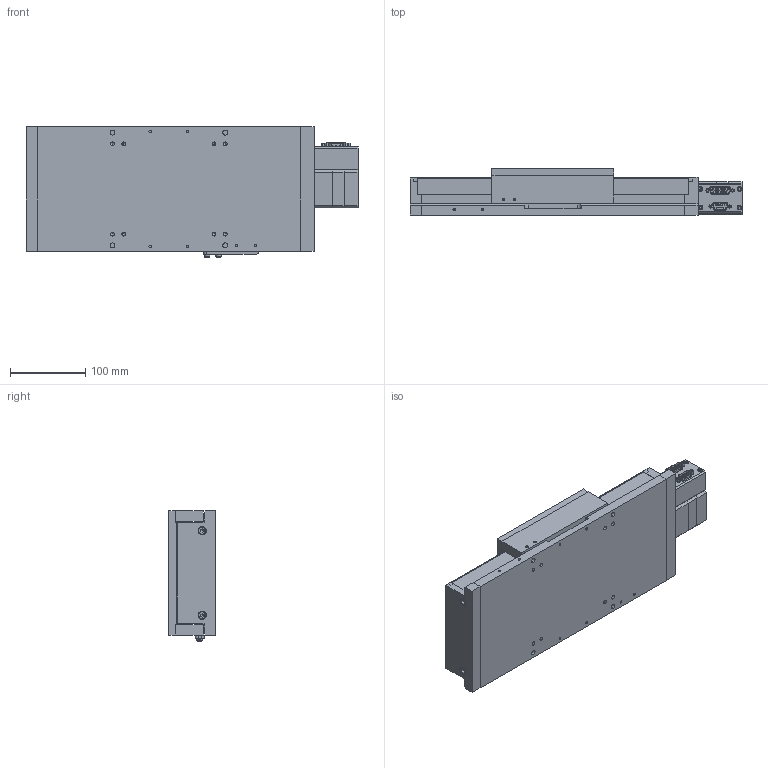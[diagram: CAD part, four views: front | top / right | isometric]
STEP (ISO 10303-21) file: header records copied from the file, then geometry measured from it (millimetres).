
FILE_DESCRIPTION (( 'STEP AP214' ), '1' );
FILE_NAME ('LM3-150-BS-A-H-S-EXPORT.STEP', '2024-05-07T14:51:56', ( 'lab' ), ( '' ), 'SwSTEP 2.0', 'SolidWorks 2018', '' );
FILE_SCHEMA (( 'AUTOMOTIVE_DESIGN' ));
Length unit declared in the file: millimetre
Products named in the file (16): 1000007; 1000001; 1000008; 1000014_91290A150; 1000002; 1000005; 1000003_91290A148; LM3-150-BS-A-H-S-EXPORT; 1000009; 1000012; 1000010; 1000017; 1000013; 1000011_150; 1000004; 1000006
Assembly tree (27 placements, depth 3):
  LM3-150-BS-A-H-S-EXPORT
    1000017
      1000001  x2
      1000002
      1000003_91290A148  x2
      1000004
      1000005
      1000006
      1000007
      1000008
      1000009
      1000010  x4
      1000011_150
      1000012
      1000013
      1000014_91290A150  x8
Bounding box: 441.4 x 62 x 173 mm (x, y, z)
Volume: 3389890 mm3; surface area: 367429.1 mm2
Topology: 78 solids, 78 shells, 1692 faces, 3862 edges, 2378 vertices
Faces by surface type: plane 889, cylinder 441, cone 192, bspline 170
Entity records: 51579 total; most frequent: CARTESIAN_POINT 12919, DIRECTION 6444, ORIENTED_EDGE 6328, EDGE_CURVE 3164, AXIS2_PLACEMENT_3D 2268, VERTEX_POINT 2015, VECTOR 1908, LINE 1908
